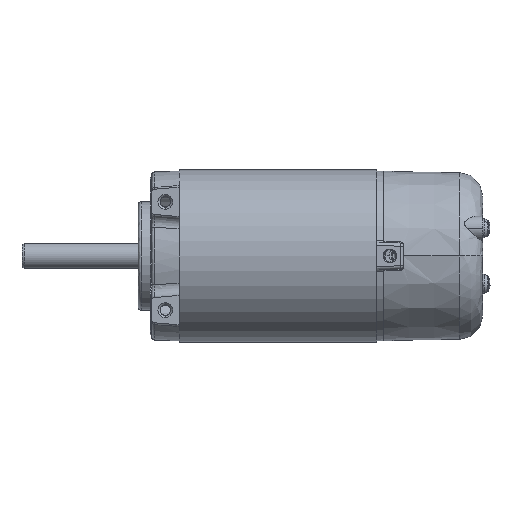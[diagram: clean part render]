
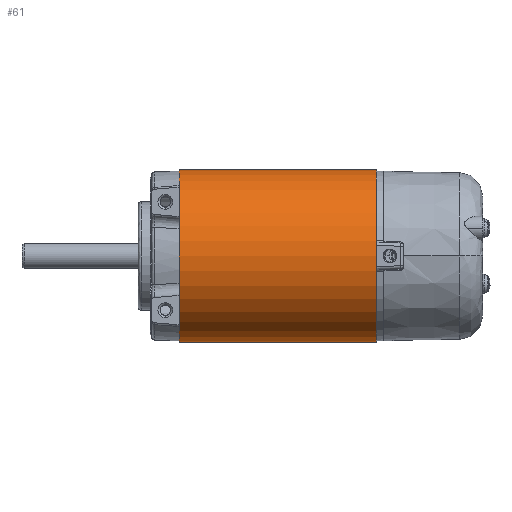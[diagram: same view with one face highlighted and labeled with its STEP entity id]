
A CAD part, front view. The second image highlights one B-rep face of the part: STEP entity #61.
In plain terms, the highlighted cylindrical face has radius 27.94 mm (diameter 55.88 mm), a partial arc.
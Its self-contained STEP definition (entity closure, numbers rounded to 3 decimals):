
#61 = ADVANCED_FACE ( 'NONE', ( #2170 ), #21678, .T. ) ;
#195 = DIRECTION ( 'NONE',  ( -1., 0., 0. ) ) ;
#467 = LINE ( 'NONE', #4479, #9606 ) ;
#1275 = DIRECTION ( 'NONE',  ( -1., 0., 0. ) ) ;
#1671 = DIRECTION ( 'NONE',  ( 1., 0., 0. ) ) ;
#2170 = FACE_OUTER_BOUND ( 'NONE', #14063, .T. ) ;
#2978 = DIRECTION ( 'NONE',  ( -1., 0., 0. ) ) ;
#2984 = AXIS2_PLACEMENT_3D ( 'NONE', #11405, #1671, #25872 ) ;
#3621 = AXIS2_PLACEMENT_3D ( 'NONE', #5027, #1275, #23583 ) ;
#4479 = CARTESIAN_POINT ( 'NONE',  ( -11.049, 58.325, 65.704 ) ) ;
#4529 = EDGE_CURVE ( 'NONE', #10257, #5651, #10207, .T. ) ;
#4700 = DIRECTION ( 'NONE',  ( -1., 0., 0. ) ) ;
#5010 = AXIS2_PLACEMENT_3D ( 'NONE', #13237, #2978, #15214 ) ;
#5027 = CARTESIAN_POINT ( 'NONE',  ( 20.79, 58.325, 37.764 ) ) ;
#5404 = EDGE_CURVE ( 'NONE', #21736, #10257, #467, .T. ) ;
#5651 = VERTEX_POINT ( 'NONE', #23834 ) ;
#7121 = ORIENTED_EDGE ( 'NONE', *, *, #20467, .T. ) ;
#7757 = CARTESIAN_POINT ( 'NONE',  ( 20.79, 58.325, 65.704 ) ) ;
#9606 = VECTOR ( 'NONE', #195, 1000. ) ;
#10207 = CIRCLE ( 'NONE', #2984, 27.94 ) ;
#10257 = VERTEX_POINT ( 'NONE', #16660 ) ;
#11405 = CARTESIAN_POINT ( 'NONE',  ( -42.888, 58.325, 37.764 ) ) ;
#12691 = VERTEX_POINT ( 'NONE', #16448 ) ;
#13237 = CARTESIAN_POINT ( 'NONE',  ( -11.049, 58.325, 37.764 ) ) ;
#13873 = ORIENTED_EDGE ( 'NONE', *, *, #21105, .F. ) ;
#14063 = EDGE_LOOP ( 'NONE', ( #13873, #7121, #26035, #20554 ) ) ;
#15214 = DIRECTION ( 'NONE',  ( 0., 0., 1. ) ) ;
#16448 = CARTESIAN_POINT ( 'NONE',  ( 20.79, 58.325, 9.824 ) ) ;
#16660 = CARTESIAN_POINT ( 'NONE',  ( -42.888, 58.325, 65.704 ) ) ;
#18659 = CARTESIAN_POINT ( 'NONE',  ( -11.049, 58.325, 9.824 ) ) ;
#20433 = LINE ( 'NONE', #18659, #23214 ) ;
#20467 = EDGE_CURVE ( 'NONE', #12691, #21736, #24513, .T. ) ;
#20554 = ORIENTED_EDGE ( 'NONE', *, *, #4529, .T. ) ;
#21105 = EDGE_CURVE ( 'NONE', #12691, #5651, #20433, .T. ) ;
#21678 = CYLINDRICAL_SURFACE ( 'NONE', #5010, 27.94 ) ;
#21736 = VERTEX_POINT ( 'NONE', #7757 ) ;
#23214 = VECTOR ( 'NONE', #4700, 1000. ) ;
#23583 = DIRECTION ( 'NONE',  ( 0., 0., 1. ) ) ;
#23834 = CARTESIAN_POINT ( 'NONE',  ( -42.888, 58.325, 9.824 ) ) ;
#24513 = CIRCLE ( 'NONE', #3621, 27.94 ) ;
#25872 = DIRECTION ( 'NONE',  ( 0., 0., 1. ) ) ;
#26035 = ORIENTED_EDGE ( 'NONE', *, *, #5404, .T. ) ;
